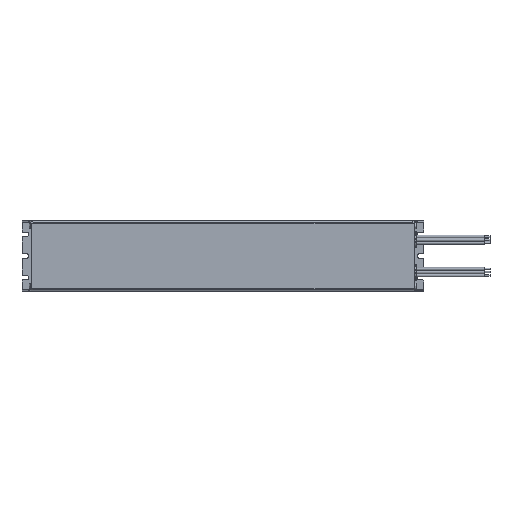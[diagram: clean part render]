
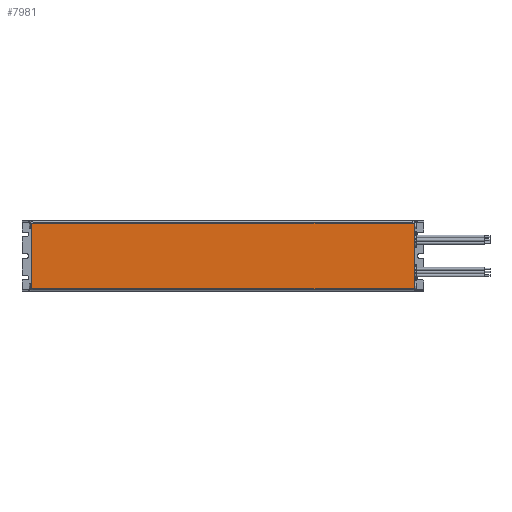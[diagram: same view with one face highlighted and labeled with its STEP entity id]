
A CAD part, top view. The second image highlights one B-rep face of the part: STEP entity #7981.
In plain terms, the highlighted planar face has unit normal (0, 0, 1).
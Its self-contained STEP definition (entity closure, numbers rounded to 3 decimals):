
#930=DIRECTION('',(1.,0.,0.));
#931=VECTOR('',#930,354.6);
#932=CARTESIAN_POINT('',(4.7,-30.2,21.));
#933=LINE('',#932,#931);
#950=DIRECTION('',(0.,-1.,0.));
#951=VECTOR('',#950,60.4);
#952=CARTESIAN_POINT('',(4.7,30.2,21.));
#953=LINE('',#952,#951);
#981=DIRECTION('',(-1.,0.,0.));
#982=VECTOR('',#981,354.6);
#983=CARTESIAN_POINT('',(359.3,30.2,21.));
#984=LINE('',#983,#982);
#2056=DIRECTION('',(0.,1.,0.));
#2057=VECTOR('',#2056,60.4);
#2058=CARTESIAN_POINT('',(359.3,-30.2,21.));
#2059=LINE('',#2058,#2057);
#5962=CARTESIAN_POINT('',(359.3,30.2,21.));
#5963=VERTEX_POINT('',#5962);
#5965=CARTESIAN_POINT('',(4.7,30.2,21.));
#5967=VERTEX_POINT('',#5965);
#5968=CARTESIAN_POINT('',(4.7,-30.2,21.));
#5969=VERTEX_POINT('',#5968);
#5970=CARTESIAN_POINT('',(359.3,-30.2,21.));
#5971=VERTEX_POINT('',#5970);
#7967=CARTESIAN_POINT('',(6.,30.2,21.));
#7968=DIRECTION('',(0.,0.,1.));
#7969=DIRECTION('',(0.,-1.,0.));
#7970=AXIS2_PLACEMENT_3D('',#7967,#7968,#7969);
#7971=PLANE('',#7970);
#7973=ORIENTED_EDGE('',*,*,#7972,.F.);
#7975=ORIENTED_EDGE('',*,*,#7974,.F.);
#7977=ORIENTED_EDGE('',*,*,#7976,.F.);
#7978=ORIENTED_EDGE('',*,*,#7950,.F.);
#7979=EDGE_LOOP('',(#7973,#7975,#7977,#7978));
#7980=FACE_OUTER_BOUND('',#7979,.F.);
#7981=ADVANCED_FACE('',(#7980),#7971,.T.);
#7950=EDGE_CURVE('',#5969,#5971,#933,.T.);
#7972=EDGE_CURVE('',#5967,#5969,#953,.T.);
#7974=EDGE_CURVE('',#5963,#5967,#984,.T.);
#7976=EDGE_CURVE('',#5971,#5963,#2059,.T.);
